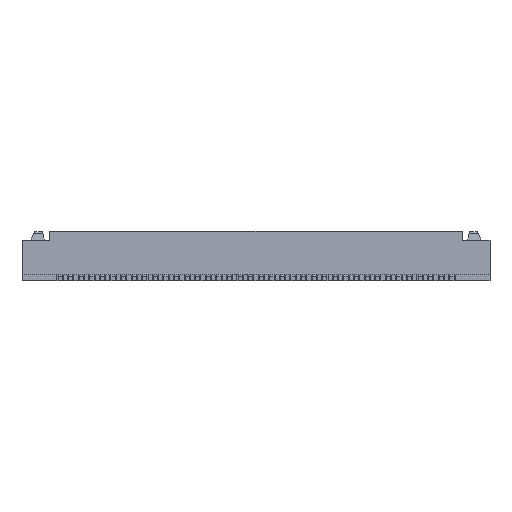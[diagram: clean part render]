
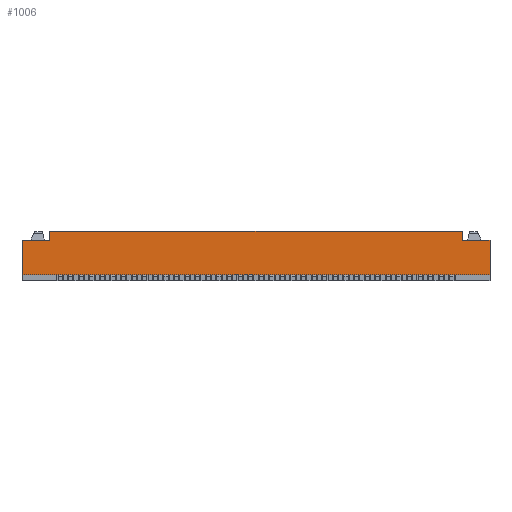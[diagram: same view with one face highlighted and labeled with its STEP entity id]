
A CAD part, front view. The second image highlights one B-rep face of the part: STEP entity #1006.
In plain terms, the highlighted planar face has unit normal (0, -1, 0).
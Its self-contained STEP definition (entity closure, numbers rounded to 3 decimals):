
#399=CARTESIAN_POINT('Vertex',(-9.75,-2.4,1.92)) ;
#402=CARTESIAN_POINT('Line Origine',(-9.75,-2.4,2.135)) ;
#406=CARTESIAN_POINT('Vertex',(-9.75,-2.4,2.35)) ;
#944=CARTESIAN_POINT('Axis2P3D Location',(0.,-2.4,0.3)) ;
#949=CARTESIAN_POINT('Line Origine',(-10.4,-2.4,1.92)) ;
#953=CARTESIAN_POINT('Vertex',(-11.05,-2.4,1.92)) ;
#956=CARTESIAN_POINT('Line Origine',(-11.05,-2.4,1.11)) ;
#960=CARTESIAN_POINT('Vertex',(-11.05,-2.4,0.3)) ;
#963=CARTESIAN_POINT('Line Origine',(0.,-2.4,0.3)) ;
#967=CARTESIAN_POINT('Vertex',(11.05,-2.4,0.3)) ;
#970=CARTESIAN_POINT('Line Origine',(11.05,-2.4,1.11)) ;
#974=CARTESIAN_POINT('Vertex',(11.05,-2.4,1.92)) ;
#977=CARTESIAN_POINT('Line Origine',(10.4,-2.4,1.92)) ;
#981=CARTESIAN_POINT('Vertex',(9.75,-2.4,1.92)) ;
#984=CARTESIAN_POINT('Line Origine',(9.75,-2.4,2.135)) ;
#988=CARTESIAN_POINT('Vertex',(9.75,-2.4,2.35)) ;
#991=CARTESIAN_POINT('Line Origine',(0.,-2.4,2.35)) ;
#403=DIRECTION('Vector Direction',(0.,0.,-1.)) ;
#945=DIRECTION('Axis2P3D Direction',(0.,1.,0.)) ;
#946=DIRECTION('Axis2P3D XDirection',(0.,0.,1.)) ;
#950=DIRECTION('Vector Direction',(1.,0.,0.)) ;
#957=DIRECTION('Vector Direction',(0.,0.,1.)) ;
#964=DIRECTION('Vector Direction',(1.,0.,0.)) ;
#971=DIRECTION('Vector Direction',(0.,0.,1.)) ;
#978=DIRECTION('Vector Direction',(-1.,0.,0.)) ;
#985=DIRECTION('Vector Direction',(0.,0.,-1.)) ;
#992=DIRECTION('Vector Direction',(1.,0.,0.)) ;
#947=AXIS2_PLACEMENT_3D('Plane Axis2P3D',#944,#945,#946) ;
#997=ORIENTED_EDGE('',*,*,#408,.T.) ;
#998=ORIENTED_EDGE('',*,*,#955,.F.) ;
#999=ORIENTED_EDGE('',*,*,#962,.T.) ;
#1000=ORIENTED_EDGE('',*,*,#969,.T.) ;
#1001=ORIENTED_EDGE('',*,*,#976,.F.) ;
#1002=ORIENTED_EDGE('',*,*,#983,.T.) ;
#1003=ORIENTED_EDGE('',*,*,#990,.F.) ;
#1004=ORIENTED_EDGE('',*,*,#995,.F.) ;
#404=VECTOR('Line Direction',#403,1.) ;
#951=VECTOR('Line Direction',#950,1.) ;
#958=VECTOR('Line Direction',#957,1.) ;
#965=VECTOR('Line Direction',#964,1.) ;
#972=VECTOR('Line Direction',#971,1.) ;
#979=VECTOR('Line Direction',#978,1.) ;
#986=VECTOR('Line Direction',#985,1.) ;
#993=VECTOR('Line Direction',#992,1.) ;
#1006=ADVANCED_FACE('\X2\96F64EF651E04F554F53\X0\',(#1005),#948,.F.) ;
#408=EDGE_CURVE('',#407,#400,#405,.T.) ;
#955=EDGE_CURVE('',#954,#400,#952,.T.) ;
#962=EDGE_CURVE('',#954,#961,#959,.F.) ;
#969=EDGE_CURVE('',#961,#968,#966,.T.) ;
#976=EDGE_CURVE('',#975,#968,#973,.F.) ;
#983=EDGE_CURVE('',#975,#982,#980,.T.) ;
#990=EDGE_CURVE('',#989,#982,#987,.T.) ;
#995=EDGE_CURVE('',#407,#989,#994,.T.) ;
#996=EDGE_LOOP('',(#997,#998,#999,#1000,#1001,#1002,#1003,#1004)) ;
#1005=FACE_OUTER_BOUND('',#996,.T.) ;
#405=LINE('Line',#402,#404) ;
#952=LINE('Line',#949,#951) ;
#959=LINE('Line',#956,#958) ;
#966=LINE('Line',#963,#965) ;
#973=LINE('Line',#970,#972) ;
#980=LINE('Line',#977,#979) ;
#987=LINE('Line',#984,#986) ;
#994=LINE('Line',#991,#993) ;
#948=PLANE('Plane',#947) ;
#400=VERTEX_POINT('',#399) ;
#407=VERTEX_POINT('',#406) ;
#954=VERTEX_POINT('',#953) ;
#961=VERTEX_POINT('',#960) ;
#968=VERTEX_POINT('',#967) ;
#975=VERTEX_POINT('',#974) ;
#982=VERTEX_POINT('',#981) ;
#989=VERTEX_POINT('',#988) ;
